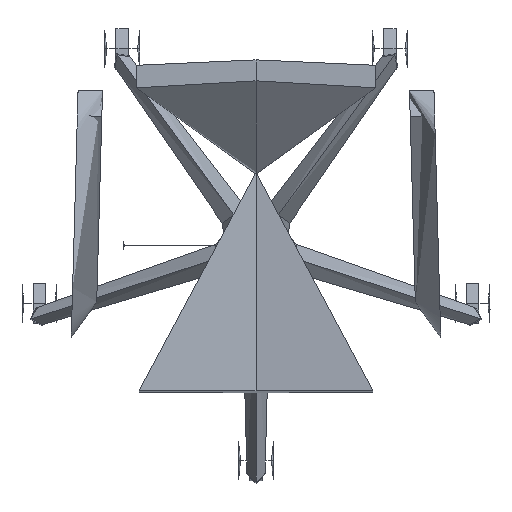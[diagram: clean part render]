
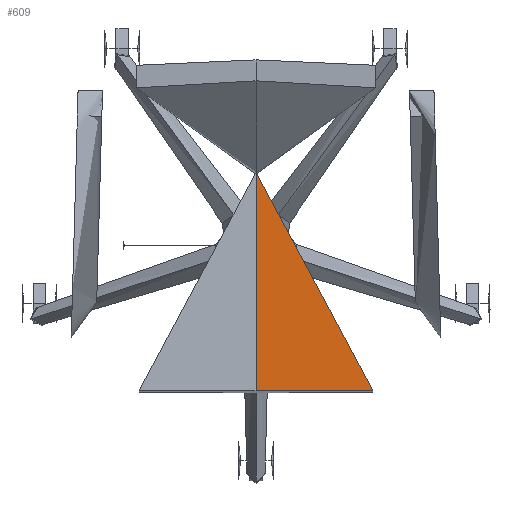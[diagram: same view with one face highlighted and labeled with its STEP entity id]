
A CAD part, top view. The second image highlights one B-rep face of the part: STEP entity #609.
In plain terms, the highlighted free-form (B-spline) face has degree [3, 3] with [4, 9] control points.
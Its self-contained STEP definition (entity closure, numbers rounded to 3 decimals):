
#206=B_SPLINE_CURVE_WITH_KNOTS('',3,(#18995,#18996,#18997,#18998,#18999,
#19000,#19001,#19002,#19003),.UNSPECIFIED.,.F.,.F.,(4,1,1,1,1,1,4),(0.,
73.633,147.266,220.899,294.532,368.165,
441.798),.UNSPECIFIED.);
#209=B_SPLINE_CURVE_WITH_KNOTS('',3,(#19020,#19021,#19022,#19023,#19024,
#19025,#19026,#19027,#19028,#19029,#19030,#19031,#19032,#19033,#19034,#19035,
#19036,#19037,#19038,#19039,#19040,#19041,#19042,#19043,#19044),
 .UNSPECIFIED.,.F.,.F.,(4,1,1,1,1,1,1,1,1,1,1,1,1,1,2,1,1,1,1,1,1,4),(0.,
4.583,9.166,13.749,18.332,22.915,
27.498,36.664,54.995,73.327,91.659,
100.825,109.991,119.157,120.717,128.322,
146.654,164.986,183.318,201.649,219.981,
238.313),.UNSPECIFIED.);
#213=B_SPLINE_CURVE_WITH_KNOTS('',3,(#19151,#19152,#19153,#19154),
 .UNSPECIFIED.,.F.,.F.,(4,4),(-146.56,0.),.UNSPECIFIED.);
#214=B_SPLINE_CURVE_WITH_KNOTS('',3,(#19155,#19156,#19157,#19158,#19159),
 .UNSPECIFIED.,.F.,.F.,(4,1,4),(298.037,368.165,441.798),
 .UNSPECIFIED.);
#215=B_SPLINE_CURVE_WITH_KNOTS('',3,(#19160,#19161,#19162,#19163,#19164,
#19165,#19166),.UNSPECIFIED.,.F.,.F.,(4,3,4),(0.,146.56,313.738),
 .UNSPECIFIED.);
#216=B_SPLINE_CURVE_WITH_KNOTS('',3,(#19167,#19168,#19169,#19170,#19171,
#19172,#19173,#19174),.UNSPECIFIED.,.F.,.F.,(4,1,1,1,1,4),(67.257,
73.633,147.266,220.899,294.532,298.037),
 .UNSPECIFIED.);
#269=B_SPLINE_SURFACE_WITH_KNOTS('',3,3,((#16249,#16250,#16251,#16252,#16253,
#16254,#16255,#16256,#16257),(#16258,#16259,#16260,#16261,#16262,#16263,
#16264,#16265,#16266),(#16267,#16268,#16269,#16270,#16271,#16272,#16273,
#16274,#16275),(#16276,#16277,#16278,#16279,#16280,#16281,#16282,#16283,
#16284)),.UNSPECIFIED.,.F.,.F.,.F.,(4,4),(4,1,1,1,1,1,4),(0.,313.738),
(-441.798,-368.165,-294.532,-220.899,
-147.266,-73.633,0.),.UNSPECIFIED.);
#609=ADVANCED_FACE('',(#844),#269,.T.);
#844=FACE_OUTER_BOUND('',#1092,.T.);
#1092=EDGE_LOOP('',(#2021,#2022,#2023,#2024,#2025,#2026));
#2021=ORIENTED_EDGE('',*,*,#2557,.T.);
#2022=ORIENTED_EDGE('',*,*,#2561,.T.);
#2023=ORIENTED_EDGE('',*,*,#2554,.T.);
#2024=ORIENTED_EDGE('',*,*,#2563,.T.);
#2025=ORIENTED_EDGE('',*,*,#2562,.F.);
#2026=ORIENTED_EDGE('',*,*,#2564,.F.);
#2554=EDGE_CURVE('',#3225,#3224,#206,.T.);
#2557=EDGE_CURVE('',#3228,#3226,#209,.T.);
#2561=EDGE_CURVE('',#3226,#3225,#213,.T.);
#2562=EDGE_CURVE('',#3229,#3230,#214,.T.);
#2563=EDGE_CURVE('',#3224,#3230,#215,.T.);
#2564=EDGE_CURVE('',#3228,#3229,#216,.T.);
#3224=VERTEX_POINT('',#18631);
#3225=VERTEX_POINT('',#18632);
#3226=VERTEX_POINT('',#18633);
#3228=VERTEX_POINT('',#18635);
#3229=VERTEX_POINT('',#18636);
#3230=VERTEX_POINT('',#18637);
#16249=CARTESIAN_POINT('',(0.,104.914,445.761));
#16250=CARTESIAN_POINT('',(72.274,104.914,445.761));
#16251=CARTESIAN_POINT('',(139.814,105.391,455.316));
#16252=CARTESIAN_POINT('',(167.339,105.784,463.164));
#16253=CARTESIAN_POINT('',(204.305,105.447,456.434));
#16254=CARTESIAN_POINT('',(243.614,104.723,441.949));
#16255=CARTESIAN_POINT('',(201.158,103.488,417.242));
#16256=CARTESIAN_POINT('',(109.984,102.476,397.004));
#16257=CARTESIAN_POINT('',(0.,102.476,397.004));
#16258=CARTESIAN_POINT('',(0.,0.465,450.983));
#16259=CARTESIAN_POINT('',(72.274,0.465,450.983));
#16260=CARTESIAN_POINT('',(139.814,0.943,460.538));
#16261=CARTESIAN_POINT('',(167.339,1.335,468.386));
#16262=CARTESIAN_POINT('',(204.305,0.999,461.657));
#16263=CARTESIAN_POINT('',(243.614,0.275,447.172));
#16264=CARTESIAN_POINT('',(201.158,-0.961,422.465));
#16265=CARTESIAN_POINT('',(99.643,-2.234,397.004));
#16266=CARTESIAN_POINT('',(0.,-2.234,397.004));
#16267=CARTESIAN_POINT('',(0.,-103.985,456.205));
#16268=CARTESIAN_POINT('',(72.274,-103.985,456.205));
#16269=CARTESIAN_POINT('',(139.814,-103.507,465.761));
#16270=CARTESIAN_POINT('',(167.339,-103.115,473.608));
#16271=CARTESIAN_POINT('',(204.305,-103.451,466.879));
#16272=CARTESIAN_POINT('',(243.614,-104.175,452.394));
#16273=CARTESIAN_POINT('',(201.158,-105.411,427.687));
#16274=CARTESIAN_POINT('',(89.303,-106.945,397.004));
#16275=CARTESIAN_POINT('',(0.,-106.945,397.004));
#16276=CARTESIAN_POINT('',(0.,-208.433,461.428));
#16277=CARTESIAN_POINT('',(72.274,-208.433,461.428));
#16278=CARTESIAN_POINT('',(139.814,-207.955,470.983));
#16279=CARTESIAN_POINT('',(167.339,-207.563,478.831));
#16280=CARTESIAN_POINT('',(204.305,-207.899,472.102));
#16281=CARTESIAN_POINT('',(243.614,-208.623,457.617));
#16282=CARTESIAN_POINT('',(201.158,-209.859,432.91));
#16283=CARTESIAN_POINT('',(78.963,-211.654,397.004));
#16284=CARTESIAN_POINT('',(0.,-211.654,397.004));
#18631=CARTESIAN_POINT('',(0.,104.914,445.761));
#18632=CARTESIAN_POINT('',(0.,102.476,397.004));
#18633=CARTESIAN_POINT('',(0.,-44.267,397.004));
#18635=CARTESIAN_POINT('',(167.387,-210.276,424.555));
#18636=CARTESIAN_POINT('',(167.387,-207.686,476.358));
#18637=CARTESIAN_POINT('',(0.,-208.433,461.428));
#18995=CARTESIAN_POINT('',(0.,102.476,397.004));
#18996=CARTESIAN_POINT('',(109.984,102.476,397.004));
#18997=CARTESIAN_POINT('',(201.158,103.488,417.242));
#18998=CARTESIAN_POINT('',(243.614,104.723,441.949));
#18999=CARTESIAN_POINT('',(204.305,105.447,456.434));
#19000=CARTESIAN_POINT('',(167.339,105.784,463.164));
#19001=CARTESIAN_POINT('',(139.814,105.391,455.316));
#19002=CARTESIAN_POINT('',(72.274,104.914,445.761));
#19003=CARTESIAN_POINT('',(0.,104.914,445.761));
#19020=CARTESIAN_POINT('',(167.387,-210.276,424.555));
#19021=CARTESIAN_POINT('',(166.318,-209.227,424.154));
#19022=CARTESIAN_POINT('',(164.186,-207.135,423.363));
#19023=CARTESIAN_POINT('',(161.002,-204.009,422.204));
#19024=CARTESIAN_POINT('',(157.833,-200.896,421.074));
#19025=CARTESIAN_POINT('',(154.675,-197.794,419.973));
#19026=CARTESIAN_POINT('',(151.529,-194.701,418.901));
#19027=CARTESIAN_POINT('',(147.346,-190.588,417.508));
#19028=CARTESIAN_POINT('',(140.052,-183.411,415.169));
#19029=CARTESIAN_POINT('',(129.681,-173.193,412.104));
#19030=CARTESIAN_POINT('',(117.217,-160.891,408.858));
#19031=CARTESIAN_POINT('',(106.735,-150.528,406.501));
#19032=CARTESIAN_POINT('',(98.246,-142.122,404.819));
#19033=CARTESIAN_POINT('',(91.814,-135.748,403.657));
#19034=CARTESIAN_POINT('',(87.106,-131.079,402.889));
#19035=CARTESIAN_POINT('',(84.548,-128.54,402.496));
#19036=CARTESIAN_POINT('',(82.359,-126.368,402.164));
#19037=CARTESIAN_POINT('',(76.166,-120.22,401.267));
#19038=CARTESIAN_POINT('',(65.604,-109.722,399.983));
#19039=CARTESIAN_POINT('',(52.491,-96.669,398.778));
#19040=CARTESIAN_POINT('',(39.38,-83.601,397.918));
#19041=CARTESIAN_POINT('',(26.265,-70.514,397.36));
#19042=CARTESIAN_POINT('',(13.142,-57.406,397.061));
#19043=CARTESIAN_POINT('',(4.383,-48.65,397.004));
#19044=CARTESIAN_POINT('',(0.,-44.267,397.004));
#19151=CARTESIAN_POINT('',(0.,-44.267,397.004));
#19152=CARTESIAN_POINT('',(0.,4.647,397.004));
#19153=CARTESIAN_POINT('',(0.,53.562,397.004));
#19154=CARTESIAN_POINT('',(0.,102.476,397.004));
#19155=CARTESIAN_POINT('',(167.387,-207.686,476.358));
#19156=CARTESIAN_POINT('',(157.263,-207.706,475.963));
#19157=CARTESIAN_POINT('',(138.206,-207.966,470.756));
#19158=CARTESIAN_POINT('',(72.274,-208.433,461.428));
#19159=CARTESIAN_POINT('',(0.,-208.433,461.428));
#19160=CARTESIAN_POINT('',(0.,104.914,445.761));
#19161=CARTESIAN_POINT('',(0.,56.122,448.2));
#19162=CARTESIAN_POINT('',(0.,7.329,450.64));
#19163=CARTESIAN_POINT('',(0.,-41.463,453.079));
#19164=CARTESIAN_POINT('',(0.,-97.12,455.862));
#19165=CARTESIAN_POINT('',(0.,-152.777,458.645));
#19166=CARTESIAN_POINT('',(0.,-208.433,461.428));
#19167=CARTESIAN_POINT('',(167.387,-210.276,424.555));
#19168=CARTESIAN_POINT('',(170.993,-210.217,425.747));
#19169=CARTESIAN_POINT('',(214.085,-209.482,440.432));
#19170=CARTESIAN_POINT('',(243.614,-208.623,457.617));
#19171=CARTESIAN_POINT('',(204.305,-207.899,472.102));
#19172=CARTESIAN_POINT('',(179.075,-207.669,476.695));
#19173=CARTESIAN_POINT('',(167.893,-207.685,476.378));
#19174=CARTESIAN_POINT('',(167.387,-207.686,476.358));
